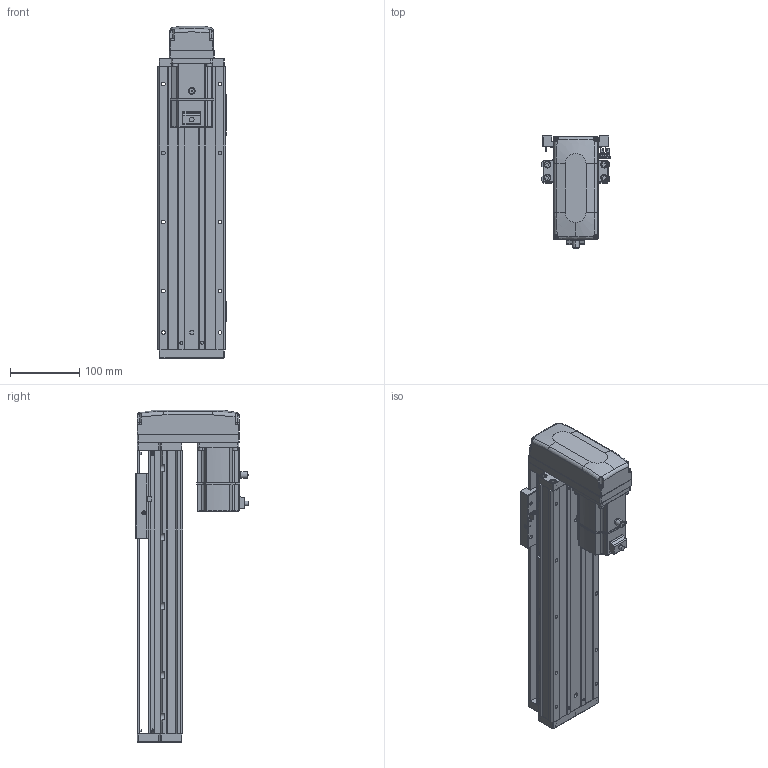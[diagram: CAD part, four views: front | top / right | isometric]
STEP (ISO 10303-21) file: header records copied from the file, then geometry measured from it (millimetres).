
FILE_DESCRIPTION (( 'STEP AP203' ), '1' );
FILE_NAME ('KTHA100-250-BM-M20-C4L.step', '2022-04-26T01:52:31', ( '微软用户' ), ( '微软中国' ), 'SwSTEP 2.0', 'SolidWorks 2020', '' );
FILE_SCHEMA (( 'CONFIG_CONTROL_DESIGN' ));
Length unit declared in the file: millimetre
Products named in the file (17): KTHA100-005; GBT70.1 M5℅16; GB¨uT 70.2-M3¡Á5_M3¡Á6; CTHA60-016; EE_SX911P_R; GBT 70.3-M3℅6; CTHA60-017; _X2_4E0983F1_X0_200W_1; KTHA100-001_410; CTHA60-021; CTHA86-015-1_CTHA86-015-2; KTHA100-002; GBT77-2000 M3×3; CTHA86-033; KTHA100-004; GBT 70.1-M3℅6; KTHA100-250-BM-M20-C4L
Assembly tree (57 placements, depth 2):
  KTHA100-250-BM-M20-C4L
    KTHA100-001_410
    KTHA100-002
    KTHA100-004
    KTHA100-005
    GB¨uT 70.2-M3¡Á5_M3¡Á6  x6
    EE_SX911P_R  x3
    CTHA60-017  x3
    CTHA60-021  x2
    GBT77-2000 M3×3  x6
    GBT 70.1-M3℅6  x10
    GBT70.1 M5℅16  x14
    CTHA60-016  x2
    GBT 70.3-M3℅6  x4
    _X2_4E0983F1_X0_200W_1
    CTHA86-015-1_CTHA86-015-2
    CTHA86-033
Bounding box: 98.82 x 163.2 x 481 mm (x, y, z)
Volume: 2446258.4 mm3; surface area: 408102.5 mm2
Topology: 60 solids, 60 shells, 2377 faces, 5665 edges, 3508 vertices
Faces by surface type: plane 1208, cylinder 659, cone 303, torus 116, bspline 75, sphere 16
Entity records: 40010 total; most frequent: CARTESIAN_POINT 8112, DIRECTION 6162, ORIENTED_EDGE 5942, EDGE_CURVE 2971, AXIS2_PLACEMENT_3D 2166, VERTEX_POINT 1868, VECTOR 1830, LINE 1830
